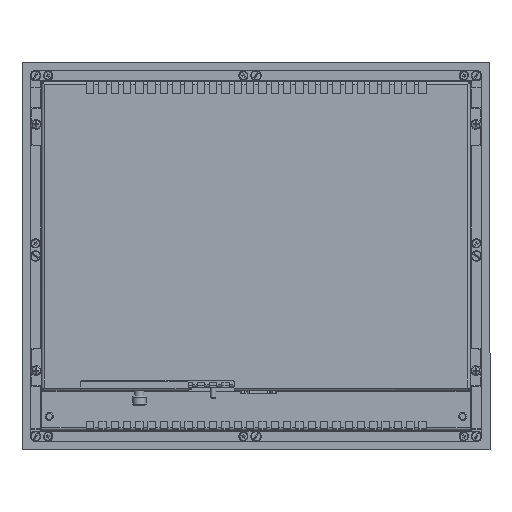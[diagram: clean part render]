
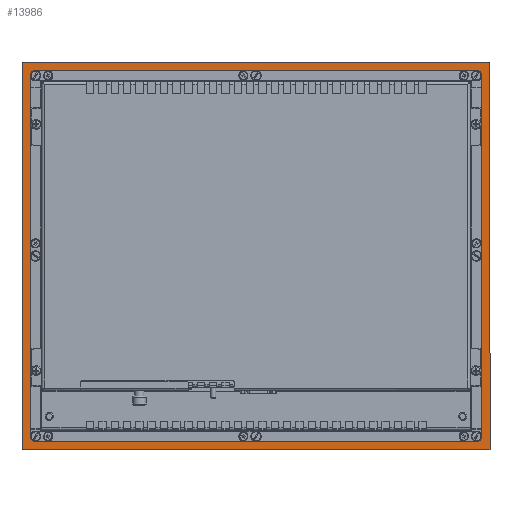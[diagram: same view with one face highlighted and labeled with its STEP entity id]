
A CAD part, top view. The second image highlights one B-rep face of the part: STEP entity #13986.
In plain terms, the highlighted planar face has unit normal (0, 0, 1).
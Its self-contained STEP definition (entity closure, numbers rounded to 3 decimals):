
#13186=CARTESIAN_POINT('',(190.,157.5,4.0));
#13187=VERTEX_POINT('',#13186);
#13188=CARTESIAN_POINT('',(190.,-157.5,4.0));
#13189=VERTEX_POINT('',#13188);
#13190=CARTESIAN_POINT('',(190.,157.5,4.0));
#13191=DIRECTION('',(0.0,-1.0,0.0));
#13192=VECTOR('',#13191,315.0);
#13193=LINE('',#13190,#13192);
#13194=EDGE_CURVE('',#13187,#13189,#13193,.T.);
#13226=CARTESIAN_POINT('',(-190.,157.5,4.0));
#13227=VERTEX_POINT('',#13226);
#13228=CARTESIAN_POINT('',(-190.,157.5,4.0));
#13229=DIRECTION('',(1.0,0.0,0.0));
#13230=VECTOR('',#13229,380.0);
#13231=LINE('',#13228,#13230);
#13232=EDGE_CURVE('',#13227,#13187,#13231,.T.);
#13869=CARTESIAN_POINT('',(-190.0,-157.5,4.0));
#13870=VERTEX_POINT('',#13869);
#13871=CARTESIAN_POINT('',(-190.0,-157.5,4.0));
#13872=DIRECTION('',(0.0,1.0,0.0));
#13873=VECTOR('',#13872,315.0);
#13874=LINE('',#13871,#13873);
#13875=EDGE_CURVE('',#13870,#13227,#13874,.T.);
#13893=CARTESIAN_POINT('',(190.,-157.5,4.0));
#13894=DIRECTION('',(-1.0,0.0,0.0));
#13895=VECTOR('',#13894,380.);
#13896=LINE('',#13893,#13895);
#13897=EDGE_CURVE('',#13189,#13870,#13896,.T.);
#13905=CARTESIAN_POINT('',(0.,0.,4.0));
#13906=DIRECTION('',(0.0,0.0,1.0));
#13907=DIRECTION('',(1.0,0.0,0.0));
#13908=AXIS2_PLACEMENT_3D('',#13905,#13906,#13907);
#13909=PLANE('',#13908);
#13910=ORIENTED_EDGE('',*,*,#13897,.F.);
#13911=ORIENTED_EDGE('',*,*,#13194,.F.);
#13912=ORIENTED_EDGE('',*,*,#13232,.F.);
#13913=ORIENTED_EDGE('',*,*,#13875,.F.);
#13914=EDGE_LOOP('',(#13910,#13911,#13912,#13913));
#13915=FACE_OUTER_BOUND('',#13914,.T.);
#13916=CARTESIAN_POINT('',(-183.,145.,4.0));
#13917=VERTEX_POINT('',#13916);
#13918=CARTESIAN_POINT('',(-183.,-145.0,4.0));
#13919=VERTEX_POINT('',#13918);
#13920=CARTESIAN_POINT('',(-183.,145.,4.0));
#13921=DIRECTION('',(0.0,-1.0,0.0));
#13922=VECTOR('',#13921,290.);
#13923=LINE('',#13920,#13922);
#13924=EDGE_CURVE('',#13917,#13919,#13923,.T.);
#13925=ORIENTED_EDGE('',*,*,#13924,.F.);
#13926=CARTESIAN_POINT('',(-177.5,150.5,4.0));
#13927=VERTEX_POINT('',#13926);
#13928=CARTESIAN_POINT('',(-177.5,145.,4.0));
#13929=DIRECTION('',(0.0,0.0,1.0));
#13930=DIRECTION('',(0.0,-1.0,0.0));
#13931=AXIS2_PLACEMENT_3D('',#13928,#13929,#13930);
#13932=CIRCLE('',#13931,5.5);
#13933=EDGE_CURVE('',#13927,#13917,#13932,.T.);
#13934=ORIENTED_EDGE('',*,*,#13933,.F.);
#13935=CARTESIAN_POINT('',(177.5,150.5,4.0));
#13936=VERTEX_POINT('',#13935);
#13937=CARTESIAN_POINT('',(177.5,150.5,4.0));
#13938=DIRECTION('',(-1.0,0.0,0.0));
#13939=VECTOR('',#13938,355.);
#13940=LINE('',#13937,#13939);
#13941=EDGE_CURVE('',#13936,#13927,#13940,.T.);
#13942=ORIENTED_EDGE('',*,*,#13941,.F.);
#13943=CARTESIAN_POINT('',(183.,145.,4.0));
#13944=VERTEX_POINT('',#13943);
#13945=CARTESIAN_POINT('',(177.5,145.,4.0));
#13946=DIRECTION('',(0.0,0.0,1.0));
#13947=DIRECTION('',(-1.0,0.0,0.0));
#13948=AXIS2_PLACEMENT_3D('',#13945,#13946,#13947);
#13949=CIRCLE('',#13948,5.5);
#13950=EDGE_CURVE('',#13944,#13936,#13949,.T.);
#13951=ORIENTED_EDGE('',*,*,#13950,.F.);
#13952=CARTESIAN_POINT('',(183.0,-145.,4.0));
#13953=VERTEX_POINT('',#13952);
#13954=CARTESIAN_POINT('',(183.0,-145.,4.0));
#13955=DIRECTION('',(0.0,1.0,0.0));
#13956=VECTOR('',#13955,290.0);
#13957=LINE('',#13954,#13956);
#13958=EDGE_CURVE('',#13953,#13944,#13957,.T.);
#13959=ORIENTED_EDGE('',*,*,#13958,.F.);
#13960=CARTESIAN_POINT('',(177.5,-150.5,4.0));
#13961=VERTEX_POINT('',#13960);
#13962=CARTESIAN_POINT('',(177.5,-145.,4.0));
#13963=DIRECTION('',(0.0,0.0,1.0));
#13964=DIRECTION('',(0.0,1.0,0.0));
#13965=AXIS2_PLACEMENT_3D('',#13962,#13963,#13964);
#13966=CIRCLE('',#13965,5.5);
#13967=EDGE_CURVE('',#13961,#13953,#13966,.T.);
#13968=ORIENTED_EDGE('',*,*,#13967,.F.);
#13969=CARTESIAN_POINT('',(-177.5,-150.5,4.0));
#13970=VERTEX_POINT('',#13969);
#13971=CARTESIAN_POINT('',(-177.5,-150.5,4.0));
#13972=DIRECTION('',(1.0,0.0,0.0));
#13973=VECTOR('',#13972,355.0);
#13974=LINE('',#13971,#13973);
#13975=EDGE_CURVE('',#13970,#13961,#13974,.T.);
#13976=ORIENTED_EDGE('',*,*,#13975,.F.);
#13977=CARTESIAN_POINT('',(-177.5,-145.0,4.0));
#13978=DIRECTION('',(0.0,0.0,1.0));
#13979=DIRECTION('',(1.0,0.0,0.0));
#13980=AXIS2_PLACEMENT_3D('',#13977,#13978,#13979);
#13981=CIRCLE('',#13980,5.5);
#13982=EDGE_CURVE('',#13919,#13970,#13981,.T.);
#13983=ORIENTED_EDGE('',*,*,#13982,.F.);
#13984=EDGE_LOOP('',(#13925,#13934,#13942,#13951,#13959,#13968,#13976,#13983));
#13985=FACE_BOUND('',#13984,.T.);
#13986=ADVANCED_FACE('',(#13915,#13985),#13909,.T.);
